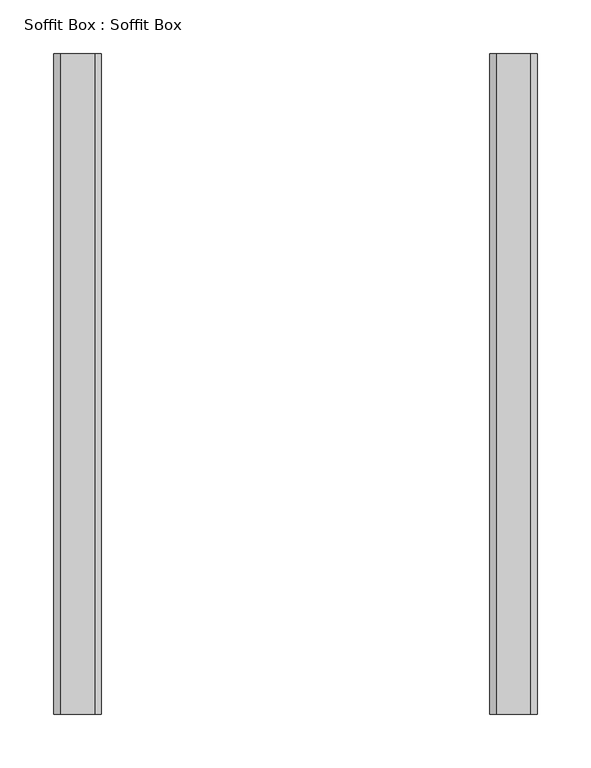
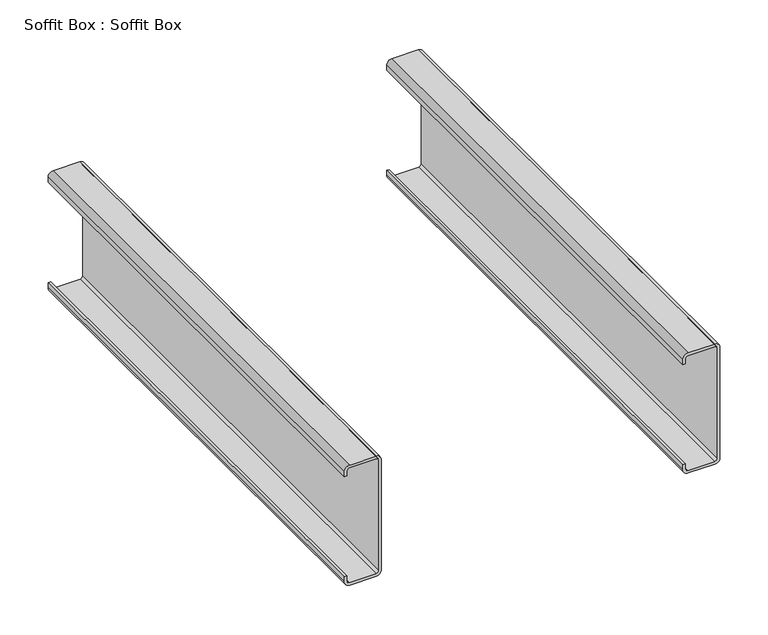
"""IFC4 building model written with IfcOpenShell, lengths in millimetres: proxy geometry, Soffit Box : Soffit Box."""

from ifc_helpers import new_model, si_unit, point, frame, frame_2d, origin, place, context, project, spatial, polyline, circle_curve, trimmed, segment, composite_curve, outline, extrude, source, transform, mapped, element, save


def soffit_box_soffit_box_108ed7b6(model_context):
    return source(origin(), model_context, "Body", "SweptSolid", [
        extrude(outline(composite_curve([segment(polyline([(73.025, 26489.1726773), (73.025, 26492.3526773), (79.7929713, 26492.3526773)]), True, "CONTINUOUS"), segment(trimmed(circle_curve(frame_2d((79.375, 26495.5226773)), 3.1974365), [point((79.7929713, 26492.3526773))], [point((82.545, 26495.104706))], True, "CARTESIAN"), True, "CONTINUOUS"), segment(polyline([(82.545, 26495.104706), (82.545, 26527.7406486)]), True, "CONTINUOUS"), segment(trimmed(circle_curve(frame_2d((79.375, 26527.3226773)), 3.1974365), [point((82.545, 26527.7406486))], [point((79.7929713, 26530.4926773))], True, "CARTESIAN"), True, "CONTINUOUS"), segment(polyline([(79.7929713, 26530.4926773), (-60.7429713, 26530.4926773)]), True, "CONTINUOUS"), segment(trimmed(circle_curve(frame_2d((-60.325, 26527.3226773)), 3.1974365), [point((-60.7429713, 26530.4926773))], [point((-63.495, 26527.7406486))], True, "CARTESIAN"), True, "CONTINUOUS"), segment(polyline([(-63.495, 26527.7406486), (-63.495, 26495.104706)]), True, "CONTINUOUS"), segment(trimmed(circle_curve(frame_2d((-60.325, 26495.5226773)), 3.1974365), [point((-63.495, 26495.104706))], [point((-60.7429713, 26492.3526773))], True, "CARTESIAN"), True, "CONTINUOUS"), segment(polyline([(-60.7429713, 26492.3526773), (-53.975, 26492.3526773), (-53.975, 26489.1726773), (-60.325, 26489.1726773)]), True, "CONTINUOUS"), segment(trimmed(circle_curve(frame_2d((-60.325, 26495.5226773)), 6.35), [point((-60.325, 26489.1726773))], [point((-66.675, 26495.5226773))], False, "CARTESIAN"), True, "CONTINUOUS"), segment(polyline([(-66.675, 26495.5226773), (-66.675, 26527.3226773)]), True, "CONTINUOUS"), segment(trimmed(circle_curve(frame_2d((-60.325, 26527.3226773)), 6.35), [point((-66.675, 26527.3226773))], [point((-60.325, 26533.6726773))], False, "CARTESIAN"), True, "CONTINUOUS"), segment(polyline([(-60.325, 26533.6726773), (79.375, 26533.6726773)]), True, "CONTINUOUS"), segment(trimmed(circle_curve(frame_2d((79.375, 26527.3226773)), 6.35), [point((79.375, 26533.6726773))], [point((85.725, 26527.3226773))], False, "CARTESIAN"), True, "CONTINUOUS"), segment(polyline([(85.725, 26527.3226773), (85.725, 26495.5226773)]), True, "CONTINUOUS"), segment(trimmed(circle_curve(frame_2d((79.375, 26495.5226773)), 6.35), [point((85.725, 26495.5226773))], [point((79.375, 26489.1726773))], False, "CARTESIAN"), True, "CONTINUOUS"), segment(polyline([(79.375, 26489.1726773), (73.025, 26489.1726773)]), True, "CONTINUOUS")], self_intersect=False)), frame((0.0, 808.6066297, 0.0), z_axis=(0.0, 1.0, 0.0), x_axis=(0.0, 0.0, 1.0)), (0.0, 0.0, 1.0), 615.95),
        extrude(outline(composite_curve([segment(polyline([(73.025, 26895.5726773), (73.025, 26898.7526773), (79.7929713, 26898.7526773)]), True, "CONTINUOUS"), segment(trimmed(circle_curve(frame_2d((79.375, 26901.9226773)), 3.1974365), [point((79.7929713, 26898.7526773))], [point((82.545, 26901.504706))], True, "CARTESIAN"), True, "CONTINUOUS"), segment(polyline([(82.545, 26901.504706), (82.545, 26934.1406486)]), True, "CONTINUOUS"), segment(trimmed(circle_curve(frame_2d((79.375, 26933.7226773)), 3.1974365), [point((82.545, 26934.1406486))], [point((79.7929713, 26936.8926773))], True, "CARTESIAN"), True, "CONTINUOUS"), segment(polyline([(79.7929713, 26936.8926773), (-60.7429713, 26936.8926773)]), True, "CONTINUOUS"), segment(trimmed(circle_curve(frame_2d((-60.325, 26933.7226773)), 3.1974365), [point((-60.7429713, 26936.8926773))], [point((-63.495, 26934.1406486))], True, "CARTESIAN"), True, "CONTINUOUS"), segment(polyline([(-63.495, 26934.1406486), (-63.495, 26901.504706)]), True, "CONTINUOUS"), segment(trimmed(circle_curve(frame_2d((-60.325, 26901.9226773)), 3.1974365), [point((-63.495, 26901.504706))], [point((-60.7429713, 26898.7526773))], True, "CARTESIAN"), True, "CONTINUOUS"), segment(polyline([(-60.7429713, 26898.7526773), (-53.975, 26898.7526773), (-53.975, 26895.5726773), (-60.325, 26895.5726773)]), True, "CONTINUOUS"), segment(trimmed(circle_curve(frame_2d((-60.325, 26901.9226773)), 6.35), [point((-60.325, 26895.5726773))], [point((-66.675, 26901.9226773))], False, "CARTESIAN"), True, "CONTINUOUS"), segment(polyline([(-66.675, 26901.9226773), (-66.675, 26933.7226773)]), True, "CONTINUOUS"), segment(trimmed(circle_curve(frame_2d((-60.325, 26933.7226773)), 6.35), [point((-66.675, 26933.7226773))], [point((-60.325, 26940.0726773))], False, "CARTESIAN"), True, "CONTINUOUS"), segment(polyline([(-60.325, 26940.0726773), (79.375, 26940.0726773)]), True, "CONTINUOUS"), segment(trimmed(circle_curve(frame_2d((79.375, 26933.7226773)), 6.35), [point((79.375, 26940.0726773))], [point((85.725, 26933.7226773))], False, "CARTESIAN"), True, "CONTINUOUS"), segment(polyline([(85.725, 26933.7226773), (85.725, 26901.9226773)]), True, "CONTINUOUS"), segment(trimmed(circle_curve(frame_2d((79.375, 26901.9226773)), 6.35), [point((85.725, 26901.9226773))], [point((79.375, 26895.5726773))], False, "CARTESIAN"), True, "CONTINUOUS"), segment(polyline([(79.375, 26895.5726773), (73.025, 26895.5726773)]), True, "CONTINUOUS")], self_intersect=False)), frame((0.0, 808.6066297, 0.0), z_axis=(0.0, 1.0, 0.0), x_axis=(0.0, 0.0, 1.0)), (0.0, 0.0, 1.0), 615.95),
    ])


if __name__ == "__main__":
    model = new_model("IFC4")
    model_context = context("Model", 3, world=origin())
    ifc_project = project(units=[si_unit("LENGTHUNIT", "METRE", prefix="MILLI")], contexts=[model_context])
    site = spatial("IfcSite", under=ifc_project)
    building = spatial("IfcBuilding", under=site)
    placement = place(None, origin())
    soffit_box_soffit_box_shape = soffit_box_soffit_box_108ed7b6(model_context)
    element("IfcBuildingElementProxy", 1, Name="Soffit Box : Soffit Box", ObjectType="Soffit Box : Soffit Box", at=placement, inside=building, context=model_context, shape_type="MappedRepresentation", body=[
        mapped(soffit_box_soffit_box_shape, transform((0.0, 0.0, 0.0), x_axis=(1.0, 0.0, 0.0), y_axis=(0.0, 1.0, 0.0), z_axis=(0.0, 0.0, 1.0))),
    ])
    save(model, "model.ifc")
